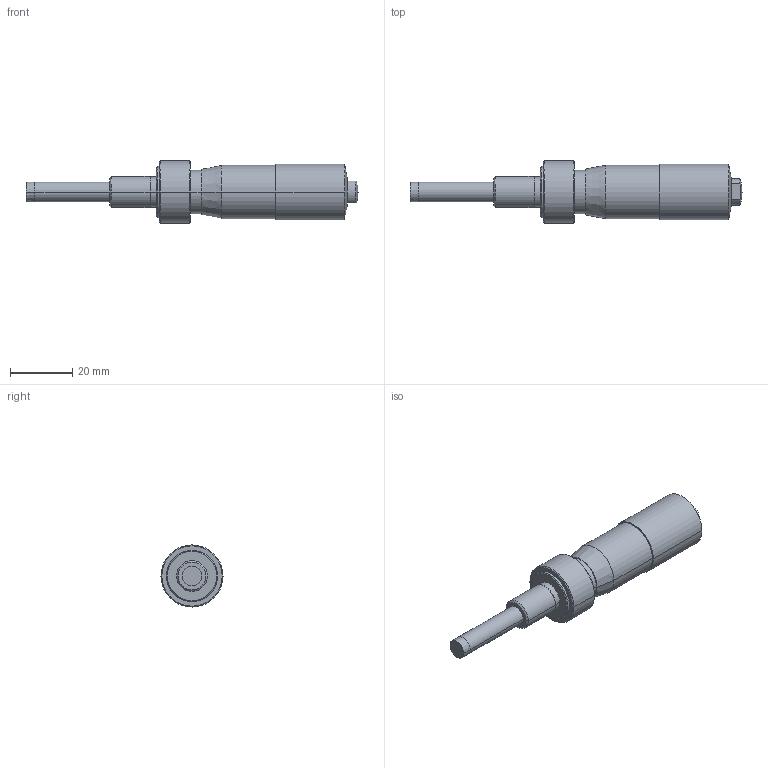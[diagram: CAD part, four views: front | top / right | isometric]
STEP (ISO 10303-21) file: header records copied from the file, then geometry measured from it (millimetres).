
FILE_DESCRIPTION(('Creo Elements/Direct Modeling STEP Export'),'2;1');
FILE_NAME('150-211-10_MHN1-25LTA.stp','2022-09-26T11:41:22',(''),(''),'Creo Elements/Direct Modeling STEP processor for AP214 (Solid Model)','Creo Elements/Direct Modeling 18.1H 24-Oct-2015 (C) Parametric Technology GmbH','');
FILE_SCHEMA(('AUTOMOTIVE_DESIGN { 1 0 10303 214 1 1 1 1 }'));
Length unit declared in the file: millimetre
Products named in the file (1): 150-211_MHN1-25LT.prt
Bounding box: 107 x 20 x 20 mm (x, y, z)
Volume: 17218.6 mm3; surface area: 5188.5 mm2
Topology: 1 solids, 1 shells, 45 faces, 94 edges, 57 vertices
Faces by surface type: cylinder 18, cone 14, plane 11, sphere 2
Entity records: 1075 total; most frequent: ORIENTED_EDGE 184, DIRECTION 182, CARTESIAN_POINT 166, EDGE_CURVE 92, AXIS2_PLACEMENT_3D 73, VERTEX_POINT 57, EDGE_LOOP 53, FACE_OUTER_BOUND 45
